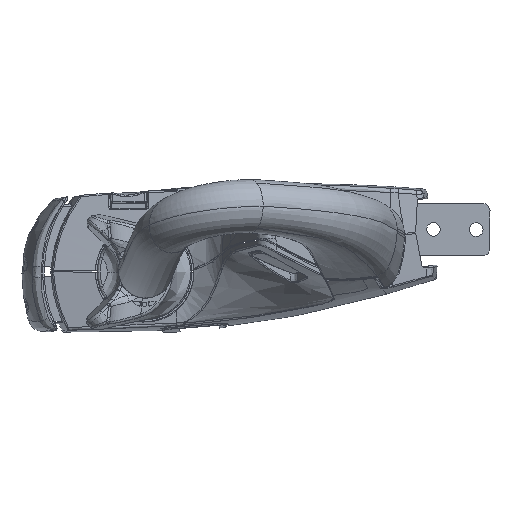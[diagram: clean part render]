
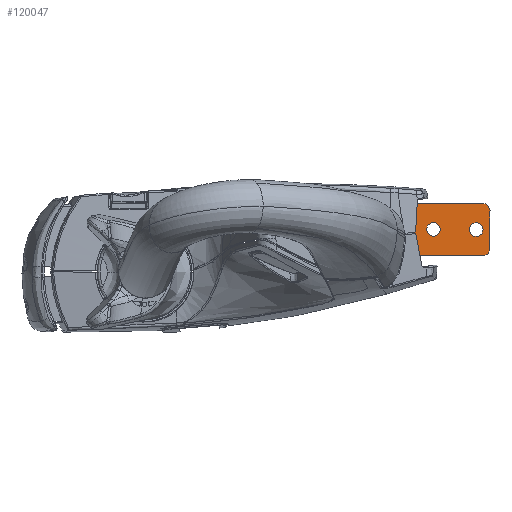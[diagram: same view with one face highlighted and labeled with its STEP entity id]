
A CAD part, left-side view. The second image highlights one B-rep face of the part: STEP entity #120047.
In plain terms, the highlighted planar face has unit normal (-1, 0, 0).
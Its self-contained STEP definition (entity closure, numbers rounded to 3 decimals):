
#1377 = CIRCLE ( 'NONE', #1382, 4.5 ) ;
#1382 = AXIS2_PLACEMENT_3D ( 'NONE', #83489, #83491, #83493 ) ;
#1384 = CIRCLE ( 'NONE', #1388, 4.5 ) ;
#1388 = AXIS2_PLACEMENT_3D ( 'NONE', #83515, #83517, #83519 ) ;
#1404 = VECTOR ( 'NONE', #83612, 1000. ) ;
#1413 = VECTOR ( 'NONE', #83651, 1000. ) ;
#1417 = CIRCLE ( 'NONE', #1425, 5. ) ;
#1418 = VECTOR ( 'NONE', #83679, 1000. ) ;
#1424 = VECTOR ( 'NONE', #83711, 1000. ) ;
#1425 = AXIS2_PLACEMENT_3D ( 'NONE', #83705, #83707, #83709 ) ;
#1430 = CIRCLE ( 'NONE', #1433, 5. ) ;
#1433 = AXIS2_PLACEMENT_3D ( 'NONE', #83743, #83745, #83747 ) ;
#1435 = VECTOR ( 'NONE', #83763, 1000. ) ;
#1436 = CIRCLE ( 'NONE', #1438, 4.5 ) ;
#1438 = AXIS2_PLACEMENT_3D ( 'NONE', #83768, #83770, #83771 ) ;
#1439 = CIRCLE ( 'NONE', #1442, 4.5 ) ;
#1441 = VECTOR ( 'NONE', #83792, 1000. ) ;
#1442 = AXIS2_PLACEMENT_3D ( 'NONE', #83786, #83788, #83789 ) ;
#1443 = VECTOR ( 'NONE', #83798, 1000. ) ;
#1444 = VECTOR ( 'NONE', #83804, 1000. ) ;
#26493 = AXIS2_PLACEMENT_3D ( 'NONE', #99673, #99675, #99678 ) ;
#53443 = EDGE_LOOP ( 'NONE', ( #121911, #121912, #121913, #121914, #121915, #121916, #121917, #121918, #121919, #121920 ) ) ;
#53449 = EDGE_LOOP ( 'NONE', ( #121909, #121910 ) ) ;
#73132 = VERTEX_POINT ( 'NONE', #178053 ) ;
#73348 = VERTEX_POINT ( 'NONE', #178167 ) ;
#83489 = CARTESIAN_POINT ( 'NONE',  ( -39.711, -28.8, 21.364 ) ) ;
#83491 = DIRECTION ( 'NONE',  ( -1., 0., 0. ) ) ;
#83493 = DIRECTION ( 'NONE',  ( 0., -0.004, 1. ) ) ;
#83515 = CARTESIAN_POINT ( 'NONE',  ( -39.711, -0.8, 21.465 ) ) ;
#83517 = DIRECTION ( 'NONE',  ( -1., 0., 0. ) ) ;
#83519 = DIRECTION ( 'NONE',  ( 0., -0.004, 1. ) ) ;
#83587 = LINE ( 'NONE', #83608, #1404 ) ;
#83608 = CARTESIAN_POINT ( 'NONE',  ( -39.711, 16.188, 24.776 ) ) ;
#83612 = DIRECTION ( 'NONE',  ( 0., 0.004, -1. ) ) ;
#83646 = LINE ( 'NONE', #83649, #1413 ) ;
#83649 = CARTESIAN_POINT ( 'NONE',  ( -39.711, 16.183, 26.276 ) ) ;
#83651 = DIRECTION ( 'NONE',  ( 0., -1., -0.004 ) ) ;
#83674 = LINE ( 'NONE', #83677, #1418 ) ;
#83677 = CARTESIAN_POINT ( 'NONE',  ( -39.711, -37.738, 4.082 ) ) ;
#83679 = DIRECTION ( 'NONE',  ( 0., -1., -0.004 ) ) ;
#83688 = CARTESIAN_POINT ( 'NONE',  ( -39.711, 16.138, 38.775 ) ) ;
#83697 = LINE ( 'NONE', #83688, #1424 ) ;
#83705 = CARTESIAN_POINT ( 'NONE',  ( -39.711, -32.756, 9.1 ) ) ;
#83707 = DIRECTION ( 'NONE',  ( -1., 0., 0. ) ) ;
#83709 = DIRECTION ( 'NONE',  ( 0., -0.004, 1. ) ) ;
#83711 = DIRECTION ( 'NONE',  ( 0., -1., -0.004 ) ) ;
#83743 = CARTESIAN_POINT ( 'NONE',  ( -39.711, -32.844, 33.6 ) ) ;
#83745 = DIRECTION ( 'NONE',  ( -1., 0., 0. ) ) ;
#83747 = DIRECTION ( 'NONE',  ( 0., -0.004, 1. ) ) ;
#83758 = LINE ( 'NONE', #83761, #1435 ) ;
#83761 = CARTESIAN_POINT ( 'NONE',  ( -39.711, -37.862, 38.582 ) ) ;
#83763 = DIRECTION ( 'NONE',  ( 0., -0.004, 1. ) ) ;
#83768 = CARTESIAN_POINT ( 'NONE',  ( -39.711, -0.8, 21.465 ) ) ;
#83770 = DIRECTION ( 'NONE',  ( -1., 0., 0. ) ) ;
#83771 = DIRECTION ( 'NONE',  ( 0., -0.004, 1. ) ) ;
#83773 = LINE ( 'NONE', #83775, #1441 ) ;
#83775 = CARTESIAN_POINT ( 'NONE',  ( -39.711, 34.138, 38.84 ) ) ;
#83786 = CARTESIAN_POINT ( 'NONE',  ( -39.711, -28.8, 21.364 ) ) ;
#83788 = DIRECTION ( 'NONE',  ( -1., 0., 0. ) ) ;
#83789 = DIRECTION ( 'NONE',  ( 0., -0.004, 1. ) ) ;
#83792 = DIRECTION ( 'NONE',  ( 0., -0.004, 1. ) ) ;
#83794 = LINE ( 'NONE', #83796, #1443 ) ;
#83796 = CARTESIAN_POINT ( 'NONE',  ( -39.711, 15.181, 26.772 ) ) ;
#83798 = DIRECTION ( 'NONE',  ( 0., -1., -0.004 ) ) ;
#83800 = LINE ( 'NONE', #83803, #1444 ) ;
#83803 = CARTESIAN_POINT ( 'NONE',  ( -39.711, 15.262, 4.272 ) ) ;
#83804 = DIRECTION ( 'NONE',  ( 0., 0.004, -1. ) ) ;
#99370 = FACE_OUTER_BOUND ( 'NONE', #53443, .T. ) ;
#99608 = FACE_BOUND ( 'NONE', #53449, .T. ) ;
#99610 = PLANE ( 'NONE',  #26493 ) ;
#99615 = FACE_BOUND ( 'NONE', #122728, .T. ) ;
#99673 = CARTESIAN_POINT ( 'NONE',  ( -39.711, 16.188, 24.776 ) ) ;
#99675 = DIRECTION ( 'NONE',  ( -1., 0., 0. ) ) ;
#99678 = DIRECTION ( 'NONE',  ( 0., -0.004, 1. ) ) ;
#100426 = EDGE_CURVE ( 'NONE', #172392, #172427, #1377, .T. ) ;
#100442 = EDGE_CURVE ( 'NONE', #172432, #172150, #1384, .T. ) ;
#100512 = EDGE_CURVE ( 'NONE', #172480, #172525, #83587, .T. ) ;
#100542 = EDGE_CURVE ( 'NONE', #172492, #172525, #83646, .T. ) ;
#100560 = EDGE_CURVE ( 'NONE', #172534, #171991, #83674, .T. ) ;
#100580 = EDGE_CURVE ( 'NONE', #171991, #171879, #1417, .T. ) ;
#100586 = EDGE_CURVE ( 'NONE', #172044, #171995, #83697, .T. ) ;
#100610 = EDGE_CURVE ( 'NONE', #73348, #171995, #1430, .T. ) ;
#100625 = EDGE_CURVE ( 'NONE', #171879, #73348, #83758, .T. ) ;
#100631 = EDGE_CURVE ( 'NONE', #172150, #172432, #1436, .T. ) ;
#100640 = EDGE_CURVE ( 'NONE', #172427, #172392, #1439, .T. ) ;
#100646 = EDGE_CURVE ( 'NONE', #172492, #172044, #83773, .T. ) ;
#100650 = EDGE_CURVE ( 'NONE', #172480, #73132, #83794, .T. ) ;
#100653 = EDGE_CURVE ( 'NONE', #73132, #172534, #83800, .T. ) ;
#117748 = CARTESIAN_POINT ( 'NONE',  ( -39.711, -37.756, 9.082 ) ) ;
#117849 = CARTESIAN_POINT ( 'NONE',  ( -39.711, -32.738, 4.1 ) ) ;
#117853 = CARTESIAN_POINT ( 'NONE',  ( -39.711, -32.862, 38.6 ) ) ;
#117897 = CARTESIAN_POINT ( 'NONE',  ( -39.711, 34.138, 38.84 ) ) ;
#117998 = CARTESIAN_POINT ( 'NONE',  ( -39.711, -0.816, 25.965 ) ) ;
#118231 = CARTESIAN_POINT ( 'NONE',  ( -39.711, -28.784, 16.864 ) ) ;
#118268 = CARTESIAN_POINT ( 'NONE',  ( -39.711, -28.816, 25.864 ) ) ;
#118273 = CARTESIAN_POINT ( 'NONE',  ( -39.711, -0.784, 16.965 ) ) ;
#118323 = CARTESIAN_POINT ( 'NONE',  ( -39.711, 16.181, 26.776 ) ) ;
#118335 = CARTESIAN_POINT ( 'NONE',  ( -39.711, 34.183, 26.34 ) ) ;
#118358 = CARTESIAN_POINT ( 'NONE',  ( -39.711, 16.183, 26.276 ) ) ;
#118366 = CARTESIAN_POINT ( 'NONE',  ( -39.711, 15.262, 4.272 ) ) ;
#120047 = ADVANCED_FACE ( 'NONE', ( #99615, #99608, #99370 ), #99610, .T. ) ;
#121907 = ORIENTED_EDGE ( 'NONE', *, *, #100426, .F. ) ;
#121908 = ORIENTED_EDGE ( 'NONE', *, *, #100640, .F. ) ;
#121909 = ORIENTED_EDGE ( 'NONE', *, *, #100442, .F. ) ;
#121910 = ORIENTED_EDGE ( 'NONE', *, *, #100631, .F. ) ;
#121911 = ORIENTED_EDGE ( 'NONE', *, *, #100625, .T. ) ;
#121912 = ORIENTED_EDGE ( 'NONE', *, *, #100610, .T. ) ;
#121913 = ORIENTED_EDGE ( 'NONE', *, *, #100586, .F. ) ;
#121914 = ORIENTED_EDGE ( 'NONE', *, *, #100646, .F. ) ;
#121915 = ORIENTED_EDGE ( 'NONE', *, *, #100542, .T. ) ;
#121916 = ORIENTED_EDGE ( 'NONE', *, *, #100512, .F. ) ;
#121917 = ORIENTED_EDGE ( 'NONE', *, *, #100650, .T. ) ;
#121918 = ORIENTED_EDGE ( 'NONE', *, *, #100653, .T. ) ;
#121919 = ORIENTED_EDGE ( 'NONE', *, *, #100560, .T. ) ;
#121920 = ORIENTED_EDGE ( 'NONE', *, *, #100580, .T. ) ;
#122728 = EDGE_LOOP ( 'NONE', ( #121907, #121908 ) ) ;
#171879 = VERTEX_POINT ( 'NONE', #117748 ) ;
#171991 = VERTEX_POINT ( 'NONE', #117849 ) ;
#171995 = VERTEX_POINT ( 'NONE', #117853 ) ;
#172044 = VERTEX_POINT ( 'NONE', #117897 ) ;
#172150 = VERTEX_POINT ( 'NONE', #117998 ) ;
#172392 = VERTEX_POINT ( 'NONE', #118231 ) ;
#172427 = VERTEX_POINT ( 'NONE', #118268 ) ;
#172432 = VERTEX_POINT ( 'NONE', #118273 ) ;
#172480 = VERTEX_POINT ( 'NONE', #118323 ) ;
#172492 = VERTEX_POINT ( 'NONE', #118335 ) ;
#172525 = VERTEX_POINT ( 'NONE', #118358 ) ;
#172534 = VERTEX_POINT ( 'NONE', #118366 ) ;
#178053 = CARTESIAN_POINT ( 'NONE',  ( -39.711, 15.181, 26.772 ) ) ;
#178167 = CARTESIAN_POINT ( 'NONE',  ( -39.711, -37.844, 33.582 ) ) ;
